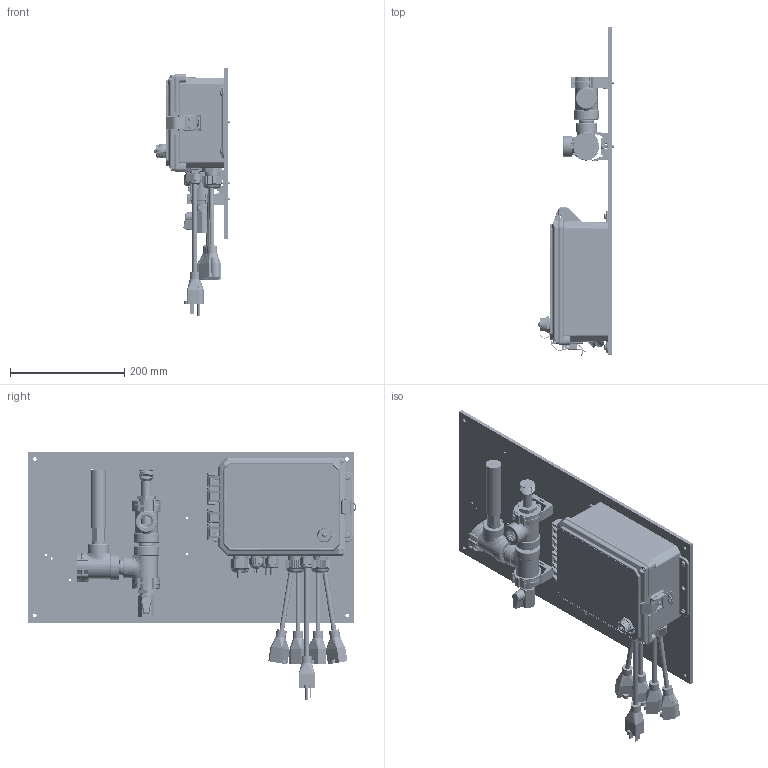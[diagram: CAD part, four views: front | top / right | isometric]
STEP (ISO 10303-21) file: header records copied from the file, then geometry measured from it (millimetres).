
FILE_DESCRIPTION (( 'STEP AP203' ), '1' );
FILE_NAME ('W600-CT-DN.STEP', '2019-05-21T20:17:43', ( '' ), ( '' ), 'SwSTEP 2.0', 'SolidWorks 2019', '' );
FILE_SCHEMA (( 'CONFIG_CONTROL_DESIGN' ));
Length unit declared in the file: inch
Products named in the file (60): ISA0021; SHELL-102961ws; ISA0011; 100101_USB; W600 Shell; ISA0018_3 Wire; SHELL-104031_4513K347; ISA0020; 1032_375H_insert; 103809; 191577-INTEGRA; 103911; SHELL-103874; 103938; 102407; SHELL-103056_4912K4; 9912562-82-10; 103807; 191584; ISA0014; SHELL-103885_98273A310; 103859_Cord1; ISA0019_Plug; SHELL-103061; 9912571-82-10_95345A043; ISA0022; W600-CT-DN; 102907; 103910; 102906; SHELL-103058; PCG-11 nut; W600-CT-DN Manifold; 9912575-82-10_90631A007; 103803; 102903_102903; 103832; 103860_Cord1; SHELL-102437_4882K14; ISA0017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
Assembly tree (99 placements, depth 4):
  W600-CT-DN
    W600 Shell
      ISA0011
        191576-INTERGRA
        1032_375H_insert  x2
        9912562-82-10
        9912571-82-10_95345A043  x2
        9912575-82-10_90631A007  x2
        102444
        9912576-82-10  x2
      191577-INTEGRA
      191584
      ISA0018_3 Wire
        102907
        102903_102903
        102906
        103860_Cord1  x2
        103861_without letter  x2
      ISA0018_3 Wire
        102907
        102903_102903
        102906
        103860_Cord1  x2
        103861_without letter  x2
      ISA0017
        103938
        103859_Cord1
        PCG-11 nut
      ISA0020
        102907
        103025  x6
        103004
        102903_102903
      ISA0019_Plug
        103938
        102407
        PCG-11 nut
      ISA0019_Plug
        103938
        102407
        PCG-11 nut
      ISA0021
        103946
        102407
        Nut for M20
      ISA0022
        103809
        103025  x3
        PCG-11 nut
        103807
      103803
      ISA0014
        103867
        191619-01
        100101_USB
        103911
      ISA0016
        103910
        103832
      103835
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Bounding box: 133.34 x 575.15 x 433.99 mm (x, y, z)
Volume: 2501332.4 mm3; surface area: 1259260.7 mm2
Topology: 100 solids, 112 shells, 14247 faces, 37103 edges, 23372 vertices
Faces by surface type: plane 7782, cylinder 3268, bspline 2297, cone 793, torus 91, sphere 16
Entity records: 485889 total; most frequent: CARTESIAN_POINT 229092, ORIENTED_EDGE 56867, DIRECTION 43963, EDGE_CURVE 28449, VERTEX_POINT 18026, VECTOR 17793, LINE 17793, AXIS2_PLACEMENT_3D 13085
